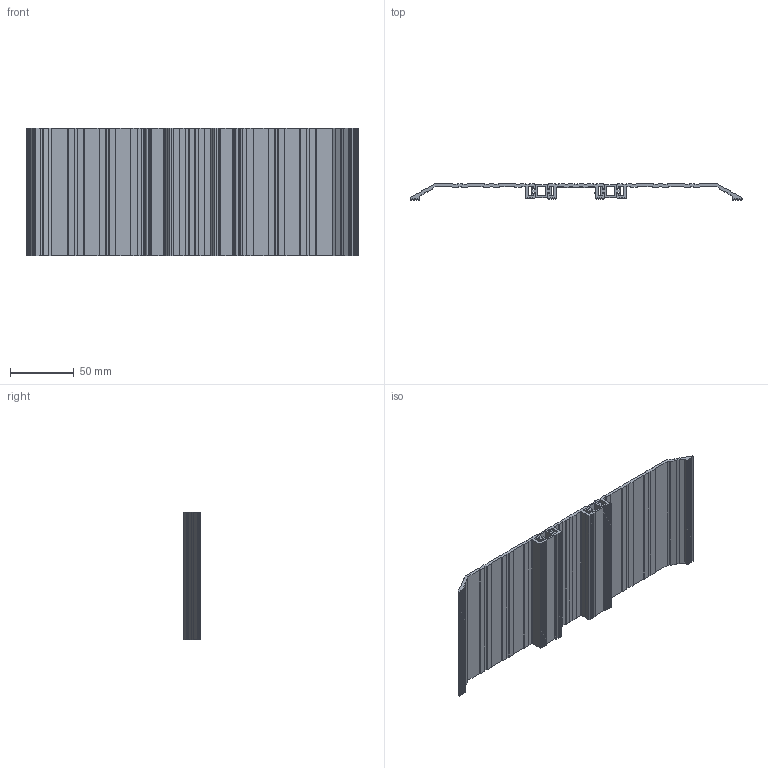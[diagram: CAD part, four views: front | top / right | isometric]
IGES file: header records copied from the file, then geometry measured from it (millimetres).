
Global section: file name: No Iges File Name specified; native system: Autodesk Inventor 2012; preprocessor: AutoDesk Inventor Iges Exporter R2012; author: anna.b; date: 20130718.151758; units: millimetre
Bounding box: 261.14 x 12.7 x 100 mm (x, y, z)
Volume: 86388.4 mm3; surface area: 88001.3 mm2
Topology: 5 solids, 5 shells, 390 faces, 1140 edges, 760 vertices
Faces by surface type: plane 317, cylinder 41, revolution 32
